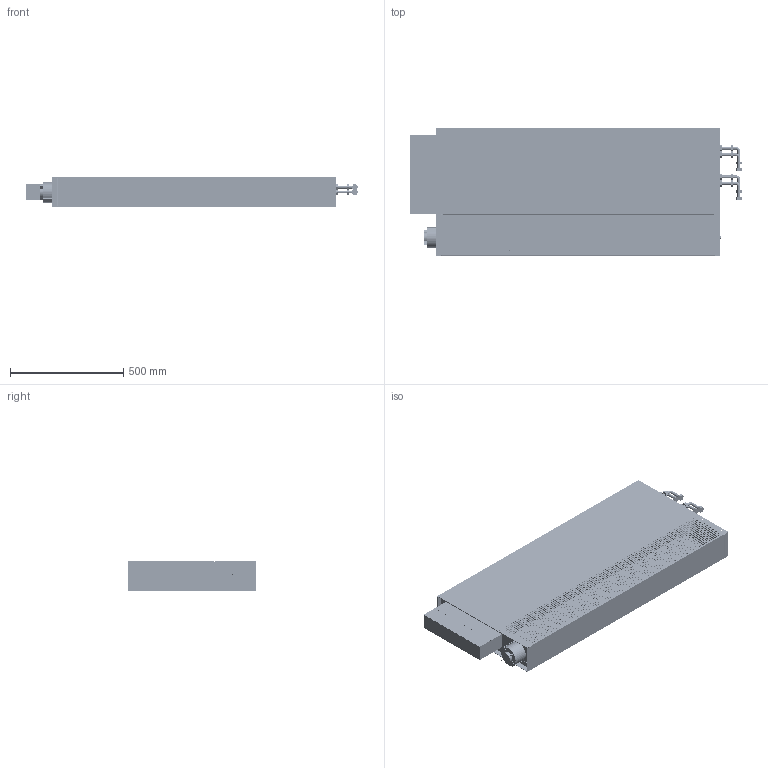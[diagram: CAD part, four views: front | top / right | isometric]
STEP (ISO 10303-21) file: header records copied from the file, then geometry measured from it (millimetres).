
FILE_DESCRIPTION (( 'STEP AP214' ), '1' );
FILE_NAME ('PFWSLA-05-4pipe_v2.STEP', '2024-10-20T16:49:24', ( '' ), ( '' ), 'SwSTEP 2.0', 'SolidWorks 2023', '' );
FILE_SCHEMA (( 'AUTOMOTIVE_DESIGN' ));
Length unit declared in the file: inch
Products named in the file (1): PFWSLA-05-4pipe_v2
Bounding box: 1468.52 x 561.98 x 130.18 mm (x, y, z)
Volume: 23923477.1 mm3; surface area: 5634914.2 mm2
Topology: 32 solids, 32 shells, 6544 faces, 18168 edges, 12096 vertices
Faces by surface type: plane 3946, cylinder 2590, torus 8
Entity records: 213636 total; most frequent: CARTESIAN_POINT 36809, DIRECTION 36466, ORIENTED_EDGE 36336, EDGE_CURVE 18168, LINE 12960, VECTOR 12960, VERTEX_POINT 12096, AXIS2_PLACEMENT_3D 11753
